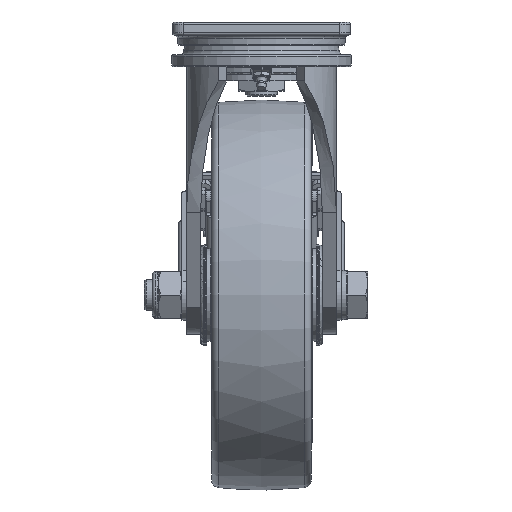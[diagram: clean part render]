
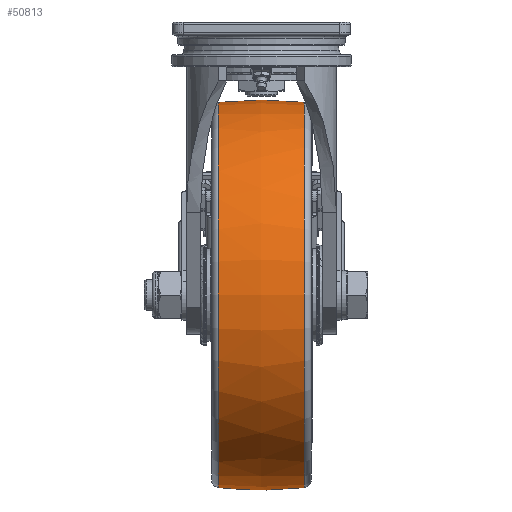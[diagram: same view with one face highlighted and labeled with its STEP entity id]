
A CAD part, left-side view. The second image highlights one B-rep face of the part: STEP entity #50813.
In plain terms, the highlighted free-form (B-spline) face has degree [2, 2] with [3, 9] control points.
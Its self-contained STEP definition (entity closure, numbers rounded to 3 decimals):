
#57=(
BOUNDED_CURVE()
B_SPLINE_CURVE(2,(#93180,#93181,#93182),.UNSPECIFIED.,.F.,.F.)
B_SPLINE_CURVE_WITH_KNOTS((3,3),(-0.11,0.11),
 .UNSPECIFIED.)
CURVE()
GEOMETRIC_REPRESENTATION_ITEM()
RATIONAL_B_SPLINE_CURVE((1.,0.994,1.))
REPRESENTATION_ITEM('')
);
#4332=(
BOUNDED_SURFACE()
B_SPLINE_SURFACE(2,2,((#93152,#93153,#93154,#93155,#93156,#93157,#93158,
#93159,#93160),(#93161,#93162,#93163,#93164,#93165,#93166,#93167,#93168,
#93169),(#93170,#93171,#93172,#93173,#93174,#93175,#93176,#93177,#93178)),
 .UNSPECIFIED.,.F.,.T.,.F.)
B_SPLINE_SURFACE_WITH_KNOTS((3,3),(3,2,2,2,3),(-0.11,0.11),
(-3.142,-1.571,0.,1.571,3.142),
 .UNSPECIFIED.)
GEOMETRIC_REPRESENTATION_ITEM()
RATIONAL_B_SPLINE_SURFACE(((1.,0.707,1.,0.707,1.,
0.707,1.,0.707,1.),(0.994,0.703,
0.994,0.703,0.994,0.703,
0.994,0.703,0.994),(1.,0.707,
1.,0.707,1.,0.707,1.,0.707,1.)))
REPRESENTATION_ITEM('')
SURFACE()
);
#8126=FACE_OUTER_BOUND('',#11305,.T.);
#11305=EDGE_LOOP('',(#43703,#43704,#43705,#43706,#43707,#43708));
#21228=CIRCLE('',#54887,12.348);
#21229=CIRCLE('',#54888,12.348);
#21230=CIRCLE('',#54889,12.348);
#21231=CIRCLE('',#54890,12.348);
#25109=VERTEX_POINT('',#93148);
#25110=VERTEX_POINT('',#93149);
#25111=VERTEX_POINT('',#93179);
#25112=VERTEX_POINT('',#93183);
#31587=EDGE_CURVE('',#25109,#25110,#21228,.T.);
#31588=EDGE_CURVE('',#25110,#25109,#21229,.T.);
#31589=EDGE_CURVE('',#25110,#25111,#57,.T.);
#31590=EDGE_CURVE('',#25111,#25112,#21230,.T.);
#31591=EDGE_CURVE('',#25112,#25111,#21231,.T.);
#43703=ORIENTED_EDGE('',*,*,#31587,.F.);
#43704=ORIENTED_EDGE('',*,*,#31588,.F.);
#43705=ORIENTED_EDGE('',*,*,#31589,.T.);
#43706=ORIENTED_EDGE('',*,*,#31590,.T.);
#43707=ORIENTED_EDGE('',*,*,#31591,.T.);
#43708=ORIENTED_EDGE('',*,*,#31589,.F.);
#50813=ADVANCED_FACE('',(#8126),#4332,.F.);
#54887=AXIS2_PLACEMENT_3D('',#93150,#64920,#64921);
#54888=AXIS2_PLACEMENT_3D('',#93151,#64922,#64923);
#54889=AXIS2_PLACEMENT_3D('',#93184,#64924,#64925);
#54890=AXIS2_PLACEMENT_3D('',#93185,#64926,#64927);
#64920=DIRECTION('center_axis',(0.,-1.,0.));
#64921=DIRECTION('ref_axis',(0.,0.,
1.));
#64922=DIRECTION('center_axis',(0.,-1.,0.));
#64923=DIRECTION('ref_axis',(0.,0.,
1.));
#64924=DIRECTION('center_axis',(0.,-1.,0.));
#64925=DIRECTION('ref_axis',(0.,0.,
1.));
#64926=DIRECTION('center_axis',(0.,-1.,0.));
#64927=DIRECTION('ref_axis',(0.,0.,
1.));
#93148=CARTESIAN_POINT('',(-6.268,-2.755,-15.125));
#93149=CARTESIAN_POINT('',(6.08,-2.755,-27.473));
#93150=CARTESIAN_POINT('Origin',(6.08,-2.755,-15.125));
#93151=CARTESIAN_POINT('Origin',(6.08,-2.755,-15.125));
#93152=CARTESIAN_POINT('Ctrl Pts',(6.08,2.755,-27.473));
#93153=CARTESIAN_POINT('Ctrl Pts',(18.427,2.755,-27.473));
#93154=CARTESIAN_POINT('Ctrl Pts',(18.427,2.755,-15.125));
#93155=CARTESIAN_POINT('Ctrl Pts',(18.427,2.755,-2.777));
#93156=CARTESIAN_POINT('Ctrl Pts',(6.08,2.755,-2.777));
#93157=CARTESIAN_POINT('Ctrl Pts',(-6.268,2.755,-2.777));
#93158=CARTESIAN_POINT('Ctrl Pts',(-6.268,2.755,-15.125));
#93159=CARTESIAN_POINT('Ctrl Pts',(-6.268,2.755,-27.473));
#93160=CARTESIAN_POINT('Ctrl Pts',(6.08,2.755,-27.473));
#93161=CARTESIAN_POINT('Ctrl Pts',(6.08,0.,
-27.778));
#93162=CARTESIAN_POINT('Ctrl Pts',(18.733,0.,
-27.778));
#93163=CARTESIAN_POINT('Ctrl Pts',(18.733,0.,
-15.125));
#93164=CARTESIAN_POINT('Ctrl Pts',(18.733,0.,
-2.472));
#93165=CARTESIAN_POINT('Ctrl Pts',(6.08,0.,
-2.472));
#93166=CARTESIAN_POINT('Ctrl Pts',(-6.574,0.,
-2.472));
#93167=CARTESIAN_POINT('Ctrl Pts',(-6.574,0.,
-15.125));
#93168=CARTESIAN_POINT('Ctrl Pts',(-6.574,0.,
-27.778));
#93169=CARTESIAN_POINT('Ctrl Pts',(6.08,0.,
-27.778));
#93170=CARTESIAN_POINT('Ctrl Pts',(6.08,-2.755,-27.473));
#93171=CARTESIAN_POINT('Ctrl Pts',(18.427,-2.755,-27.473));
#93172=CARTESIAN_POINT('Ctrl Pts',(18.427,-2.755,-15.125));
#93173=CARTESIAN_POINT('Ctrl Pts',(18.427,-2.755,-2.777));
#93174=CARTESIAN_POINT('Ctrl Pts',(6.08,-2.755,-2.777));
#93175=CARTESIAN_POINT('Ctrl Pts',(-6.268,-2.755,
-2.777));
#93176=CARTESIAN_POINT('Ctrl Pts',(-6.268,-2.755,
-15.125));
#93177=CARTESIAN_POINT('Ctrl Pts',(-6.268,-2.755,
-27.473));
#93178=CARTESIAN_POINT('Ctrl Pts',(6.08,-2.755,-27.473));
#93179=CARTESIAN_POINT('',(6.08,2.755,-27.473));
#93180=CARTESIAN_POINT('Ctrl Pts',(6.08,-2.755,-27.473));
#93181=CARTESIAN_POINT('Ctrl Pts',(6.08,0.,
-27.778));
#93182=CARTESIAN_POINT('Ctrl Pts',(6.08,2.755,-27.473));
#93183=CARTESIAN_POINT('',(-6.268,2.755,-15.125));
#93184=CARTESIAN_POINT('Origin',(6.08,2.755,-15.125));
#93185=CARTESIAN_POINT('Origin',(6.08,2.755,-15.125));
